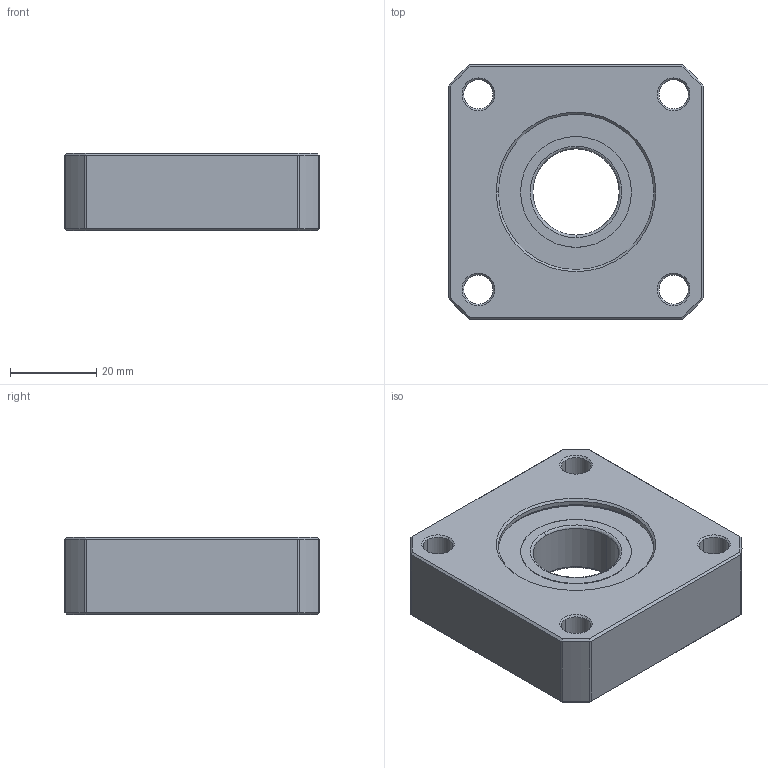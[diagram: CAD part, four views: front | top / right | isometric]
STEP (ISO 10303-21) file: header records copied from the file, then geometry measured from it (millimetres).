
FILE_DESCRIPTION (( 'STEP AP203' ), '1' );
FILE_NAME ('SBS20.STEP', '2009-05-27T05:54:42', ( '冠犁泅' ), ( '俺惯何' ), 'SwSTEP 2.0', 'SolidWorks 2007', '' );
FILE_SCHEMA (( 'CONFIG_CONTROL_DESIGN' ));
Length unit declared in the file: millimetre
Products named in the file (4): 6004zz_ル遽; sbs20-housing_ル遽; SBS20; retaining ring for bore RTW-42
Assembly tree (3 placements, depth 2):
  SBS20
    sbs20-housing_ル遽
    retaining ring for bore RTW-42
    6004zz_ル遽
Bounding box: 59 x 59 x 18 mm (x, y, z)
Volume: 33887.7 mm3; surface area: 23755.9 mm2
Topology: 2 solids, 17 shells, 182 faces, 461 edges, 280 vertices
Faces by surface type: cylinder 69, plane 45, bspline 38, cone 30
Entity records: 7632 total; most frequent: CARTESIAN_POINT 3118, DIRECTION 889, ORIENTED_EDGE 818, EDGE_CURVE 417, AXIS2_PLACEMENT_3D 371, VERTEX_POINT 280, CIRCLE 220, EDGE_LOOP 215
